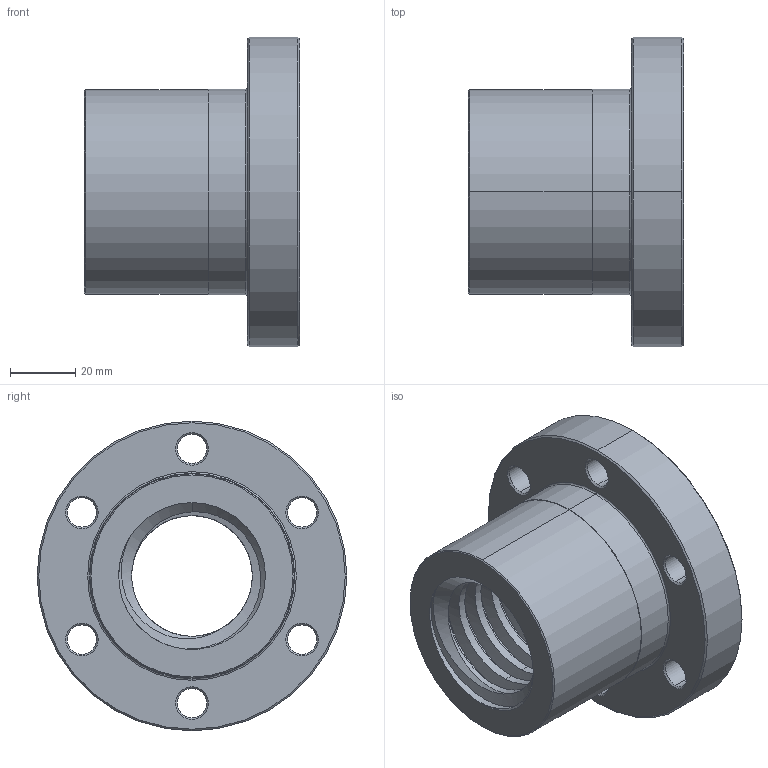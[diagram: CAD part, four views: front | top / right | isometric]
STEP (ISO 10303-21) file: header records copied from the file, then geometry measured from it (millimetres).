
FILE_DESCRIPTION((''),'2;1');
FILE_NAME('716-044-6800_PRT','2024-03-27T',('Brieden'),('ib-brieden'),'PRO/ENGINEER BY PARAMETRIC TECHNOLOGY CORPORATION, 2010160','PRO/ENGINEER BY PARAMETRIC TECHNOLOGY CORPORATION, 2010160','');
FILE_SCHEMA(('AUTOMOTIVE_DESIGN { 1 0 10303 214 1 1 1 1 }'));
Length unit declared in the file: millimetre
Products named in the file (1): 716-044-6800_PRT
Bounding box: 66 x 95 x 95 mm (x, y, z)
Volume: 173846.3 mm3; surface area: 42998.7 mm2
Topology: 1 solids, 1 shells, 83 faces, 197 edges, 118 vertices
Faces by surface type: cone 34, cylinder 34, bspline 9, plane 4, torus 2
Entity records: 7024 total; most frequent: CARTESIAN_POINT 5095, ORIENTED_EDGE 394, DIRECTION 371, EDGE_CURVE 197, AXIS2_PLACEMENT_3D 150, VERTEX_POINT 118, EDGE_LOOP 99, FACE_OUTER_BOUND 83
